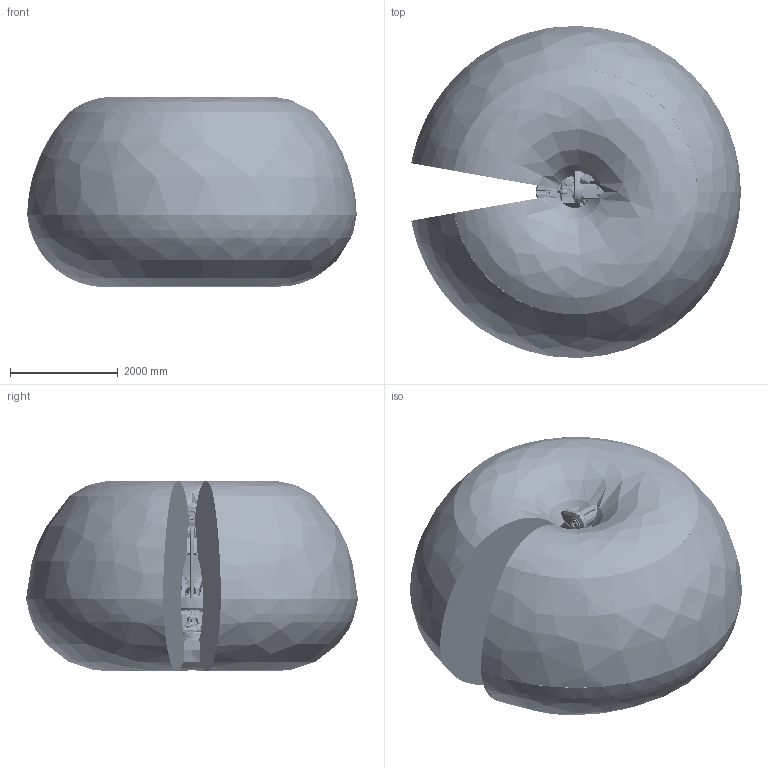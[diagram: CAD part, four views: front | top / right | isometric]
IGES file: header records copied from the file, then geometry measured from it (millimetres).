
Start section: SolidWorks IGES file using analytic representation for surfaces
Global section: file name: B:\DM\Robotics\SEROP_PROJ\Product Development\DevelopmentProjects\Manipulator_Modularity\04. Product Design\06. CAD\Amanda\7710 Simulation models\IRB7710_430kg-310_OC_00_SW_J\IRB7710_430kg-310_OC_00_ASM_CAD.IGS; native system: SolidWorks 2022; preprocessor: SolidWorks 2022; author: SEAMSTO1; date: 240215.135912; units: millimetre
Bounding box: 6103.23 x 6149.59 x 3522.67 mm (x, y, z)
Surface area: 138096233 mm2 (no closed solid volume)
Topology: 0 solids, 0 shells, 8612 faces, 151893 edges, 151732 vertices
Faces by surface type: bspline 4686, revolution 3926
